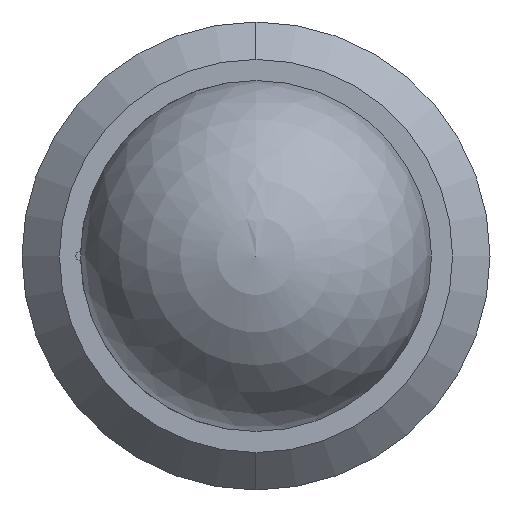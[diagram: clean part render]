
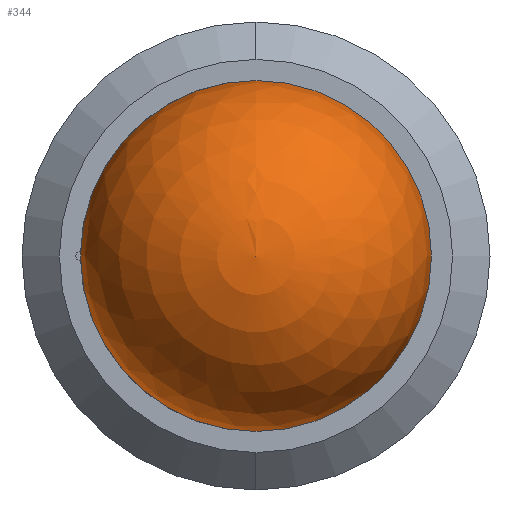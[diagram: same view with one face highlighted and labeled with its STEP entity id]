
A CAD part, left-side view. The second image highlights one B-rep face of the part: STEP entity #344.
In plain terms, the highlighted spherical face has radius 2.381 mm.
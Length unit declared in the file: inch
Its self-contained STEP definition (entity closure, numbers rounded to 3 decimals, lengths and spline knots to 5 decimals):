
#18 = CARTESIAN_POINT ( 'NONE',  ( 0., 0., 0. ) ) ;
#24 = CARTESIAN_POINT ( 'NONE',  ( 0., 0.09375, 0. ) ) ;
#32 = ORIENTED_EDGE ( 'NONE', *, *, #81, .F. ) ;
#52 = DIRECTION ( 'NONE',  ( -1., 0., 0. ) ) ;
#81 = EDGE_CURVE ( 'NONE', #84, #199, #480, .T. ) ;
#84 = VERTEX_POINT ( 'NONE', #24 ) ;
#176 = CARTESIAN_POINT ( 'NONE',  ( 0., 0., 0. ) ) ;
#199 = VERTEX_POINT ( 'NONE', #602 ) ;
#268 = SPHERICAL_SURFACE ( 'NONE', #507, 0.09375 ) ;
#271 = AXIS2_PLACEMENT_3D ( 'NONE', #414, #52, #472 ) ;
#292 = CIRCLE ( 'NONE', #271, 0.09375 ) ;
#306 = ORIENTED_EDGE ( 'NONE', *, *, #765, .T. ) ;
#344 = ADVANCED_FACE ( 'NONE', ( #579 ), #268, .T. ) ;
#351 = DIRECTION ( 'NONE',  ( -1., 0., 0. ) ) ;
#406 = DIRECTION ( 'NONE',  ( 0., 0., 1. ) ) ;
#414 = CARTESIAN_POINT ( 'NONE',  ( 0., 0., 0. ) ) ;
#472 = DIRECTION ( 'NONE',  ( 0., 0., 1. ) ) ;
#480 = CIRCLE ( 'NONE', #684, 0.09375 ) ;
#507 = AXIS2_PLACEMENT_3D ( 'NONE', #176, #351, #406 ) ;
#579 = FACE_OUTER_BOUND ( 'NONE', #665, .T. ) ;
#596 = DIRECTION ( 'NONE',  ( 1., 0., 0. ) ) ;
#602 = CARTESIAN_POINT ( 'NONE',  ( 0., -0.09375, 0. ) ) ;
#665 = EDGE_LOOP ( 'NONE', ( #32, #306 ) ) ;
#684 = AXIS2_PLACEMENT_3D ( 'NONE', #18, #596, #767 ) ;
#765 = EDGE_CURVE ( 'NONE', #84, #199, #292, .T. ) ;
#767 = DIRECTION ( 'NONE',  ( 0., 0., -1. ) ) ;
